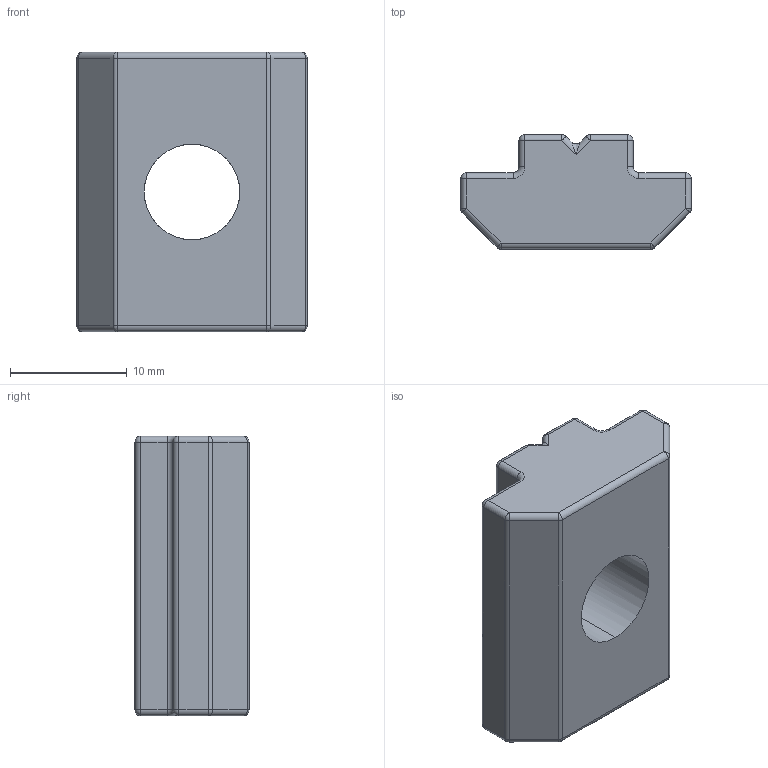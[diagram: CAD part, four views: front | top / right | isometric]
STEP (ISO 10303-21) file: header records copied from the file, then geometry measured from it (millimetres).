
FILE_DESCRIPTION (( 'STEP AP203' ), '1' );
FILE_NAME ('5075.STEP', '2016-04-22T17:39:20', ( '' ), ( '' ), 'SwSTEP 2.0', 'SolidWorks 2014', '' );
FILE_SCHEMA (( 'CONFIG_CONTROL_DESIGN' ));
Length unit declared in the file: millimetre
Products named in the file (1): 5075
Bounding box: 19.8 x 9.8 x 24 mm (x, y, z)
Volume: 3074.7 mm3; surface area: 1725.4 mm2
Topology: 1 solids, 1 shells, 87 faces, 202 edges, 98 vertices
Faces by surface type: cylinder 44, sphere 20, plane 17, torus 4, bspline 2
Entity records: 2407 total; most frequent: CARTESIAN_POINT 476, DIRECTION 422, ORIENTED_EDGE 368, EDGE_CURVE 184, AXIS2_PLACEMENT_3D 168, VERTEX_POINT 98, EDGE_LOOP 88, FACE_OUTER_BOUND 87
